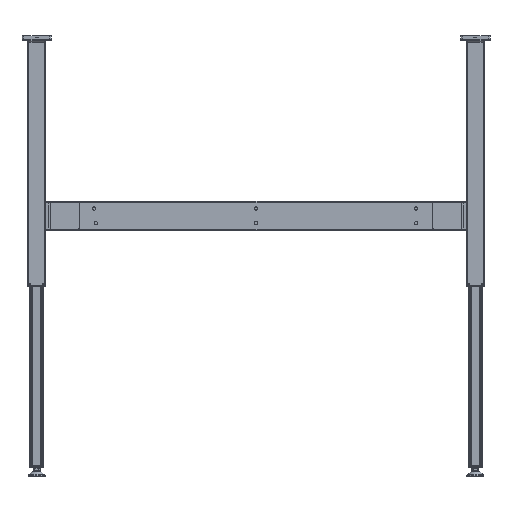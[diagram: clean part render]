
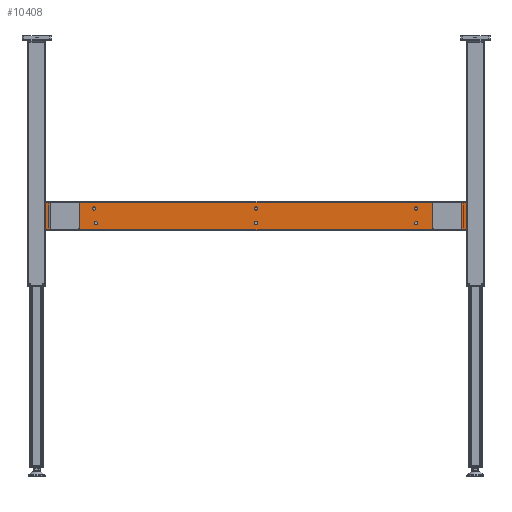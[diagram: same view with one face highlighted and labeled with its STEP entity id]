
A CAD part, left-side view. The second image highlights one B-rep face of the part: STEP entity #10408.
In plain terms, the highlighted planar face has unit normal (-1, 0, 0) as drawn and (0, 0, -1) by its records, which use the part's own axes.
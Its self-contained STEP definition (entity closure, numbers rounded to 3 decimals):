
#1041=CIRCLE('',#11484,4.5);
#1042=CIRCLE('',#11485,4.5);
#1043=CIRCLE('',#11486,4.5);
#1044=CIRCLE('',#11487,4.5);
#1045=CIRCLE('',#11488,4.5);
#1046=CIRCLE('',#11489,4.5);
#1047=CIRCLE('',#11490,5.);
#1048=CIRCLE('',#11491,5.);
#1049=CIRCLE('',#11492,5.);
#1050=CIRCLE('',#11493,5.);
#1051=CIRCLE('',#11494,5.);
#1052=CIRCLE('',#11495,5.);
#1053=CIRCLE('',#11496,5.);
#1054=CIRCLE('',#11497,5.);
#2982=ORIENTED_EDGE('',*,*,#4284,.F.);
#2983=ORIENTED_EDGE('',*,*,#4285,.F.);
#2984=ORIENTED_EDGE('',*,*,#4286,.F.);
#2985=ORIENTED_EDGE('',*,*,#4287,.F.);
#2986=ORIENTED_EDGE('',*,*,#4288,.F.);
#2987=ORIENTED_EDGE('',*,*,#4289,.F.);
#2988=ORIENTED_EDGE('',*,*,#4290,.F.);
#2989=ORIENTED_EDGE('',*,*,#4291,.F.);
#2990=ORIENTED_EDGE('',*,*,#4292,.T.);
#2991=ORIENTED_EDGE('',*,*,#4293,.T.);
#2992=ORIENTED_EDGE('',*,*,#4294,.T.);
#2993=ORIENTED_EDGE('',*,*,#4295,.T.);
#2994=ORIENTED_EDGE('',*,*,#4296,.T.);
#2995=ORIENTED_EDGE('',*,*,#4297,.T.);
#2996=ORIENTED_EDGE('',*,*,#4298,.T.);
#2997=ORIENTED_EDGE('',*,*,#4299,.T.);
#2998=ORIENTED_EDGE('',*,*,#4300,.T.);
#2999=ORIENTED_EDGE('',*,*,#4301,.T.);
#3000=ORIENTED_EDGE('',*,*,#4302,.F.);
#3001=ORIENTED_EDGE('',*,*,#4303,.F.);
#3002=ORIENTED_EDGE('',*,*,#4304,.F.);
#3003=ORIENTED_EDGE('',*,*,#4305,.F.);
#3004=ORIENTED_EDGE('',*,*,#4306,.F.);
#3005=ORIENTED_EDGE('',*,*,#4307,.F.);
#3006=ORIENTED_EDGE('',*,*,#4308,.F.);
#3007=ORIENTED_EDGE('',*,*,#4309,.F.);
#4284=EDGE_CURVE('',#5139,#5139,#1041,.T.);
#4285=EDGE_CURVE('',#5140,#5140,#1042,.T.);
#4286=EDGE_CURVE('',#5141,#5141,#1043,.T.);
#4287=EDGE_CURVE('',#5142,#5142,#1044,.T.);
#4288=EDGE_CURVE('',#5143,#5143,#1045,.T.);
#4289=EDGE_CURVE('',#5144,#5144,#1046,.T.);
#4290=EDGE_CURVE('',#5145,#5146,#5845,.T.);
#4291=EDGE_CURVE('',#5147,#5145,#5846,.T.);
#4292=EDGE_CURVE('',#5147,#5148,#5847,.T.);
#4293=EDGE_CURVE('',#5148,#5146,#5848,.T.);
#4294=EDGE_CURVE('',#5149,#5150,#1047,.F.);
#4295=EDGE_CURVE('',#5150,#5151,#5849,.T.);
#4296=EDGE_CURVE('',#5151,#5152,#1048,.F.);
#4297=EDGE_CURVE('',#5152,#5153,#5850,.T.);
#4298=EDGE_CURVE('',#5153,#5154,#1049,.F.);
#4299=EDGE_CURVE('',#5154,#5155,#5851,.T.);
#4300=EDGE_CURVE('',#5155,#5156,#1050,.F.);
#4301=EDGE_CURVE('',#5156,#5149,#5852,.T.);
#4302=EDGE_CURVE('',#5157,#5158,#5853,.T.);
#4303=EDGE_CURVE('',#5159,#5157,#1051,.T.);
#4304=EDGE_CURVE('',#5160,#5159,#5854,.T.);
#4305=EDGE_CURVE('',#5161,#5160,#1052,.T.);
#4306=EDGE_CURVE('',#5162,#5161,#5855,.T.);
#4307=EDGE_CURVE('',#5163,#5162,#1053,.T.);
#4308=EDGE_CURVE('',#5164,#5163,#5856,.T.);
#4309=EDGE_CURVE('',#5158,#5164,#1054,.T.);
#5139=VERTEX_POINT('',#16606);
#5140=VERTEX_POINT('',#16608);
#5141=VERTEX_POINT('',#16610);
#5142=VERTEX_POINT('',#16612);
#5143=VERTEX_POINT('',#16614);
#5144=VERTEX_POINT('',#16616);
#5145=VERTEX_POINT('',#16618);
#5146=VERTEX_POINT('',#16619);
#5147=VERTEX_POINT('',#16621);
#5148=VERTEX_POINT('',#16623);
#5149=VERTEX_POINT('',#16626);
#5150=VERTEX_POINT('',#16627);
#5151=VERTEX_POINT('',#16629);
#5152=VERTEX_POINT('',#16631);
#5153=VERTEX_POINT('',#16633);
#5154=VERTEX_POINT('',#16635);
#5155=VERTEX_POINT('',#16637);
#5156=VERTEX_POINT('',#16639);
#5157=VERTEX_POINT('',#16642);
#5158=VERTEX_POINT('',#16643);
#5159=VERTEX_POINT('',#16645);
#5160=VERTEX_POINT('',#16647);
#5161=VERTEX_POINT('',#16649);
#5162=VERTEX_POINT('',#16651);
#5163=VERTEX_POINT('',#16653);
#5164=VERTEX_POINT('',#16655);
#5845=LINE('',#16617,#6500);
#5846=LINE('',#16620,#6501);
#5847=LINE('',#16622,#6502);
#5848=LINE('',#16624,#6503);
#5849=LINE('',#16628,#6504);
#5850=LINE('',#16632,#6505);
#5851=LINE('',#16636,#6506);
#5852=LINE('',#16640,#6507);
#5853=LINE('',#16641,#6508);
#5854=LINE('',#16646,#6509);
#5855=LINE('',#16650,#6510);
#5856=LINE('',#16654,#6511);
#6500=VECTOR('',#13937,1000.);
#6501=VECTOR('',#13938,1000.);
#6502=VECTOR('',#13939,1000.);
#6503=VECTOR('',#13940,1000.);
#6504=VECTOR('',#13943,1000.);
#6505=VECTOR('',#13946,1000.);
#6506=VECTOR('',#13949,1000.);
#6507=VECTOR('',#13952,1000.);
#6508=VECTOR('',#13953,1000.);
#6509=VECTOR('',#13956,1000.);
#6510=VECTOR('',#13959,1000.);
#6511=VECTOR('',#13962,1000.);
#7216=EDGE_LOOP('',(#2982));
#7217=EDGE_LOOP('',(#2983));
#7218=EDGE_LOOP('',(#2984));
#7219=EDGE_LOOP('',(#2985));
#7220=EDGE_LOOP('',(#2986));
#7221=EDGE_LOOP('',(#2987));
#7222=EDGE_LOOP('',(#2988,#2989,#2990,#2991));
#7223=EDGE_LOOP('',(#2992,#2993,#2994,#2995,#2996,#2997,#2998,#2999));
#7224=EDGE_LOOP('',(#3000,#3001,#3002,#3003,#3004,#3005,#3006,#3007));
#8012=FACE_BOUND('',#7216,.T.);
#8013=FACE_BOUND('',#7217,.T.);
#8014=FACE_BOUND('',#7218,.T.);
#8015=FACE_BOUND('',#7219,.T.);
#8016=FACE_BOUND('',#7220,.T.);
#8017=FACE_BOUND('',#7221,.T.);
#8018=FACE_BOUND('',#7222,.T.);
#8019=FACE_BOUND('',#7223,.T.);
#8020=FACE_BOUND('',#7224,.T.);
#8398=PLANE('',#11483);
#10408=ADVANCED_FACE('',(#8012,#8013,#8014,#8015,#8016,#8017,#8018,#8019,
#8020),#8398,.T.);
#11483=AXIS2_PLACEMENT_3D('',#16604,#13923,#13924);
#11484=AXIS2_PLACEMENT_3D('',#16605,#13925,#13926);
#11485=AXIS2_PLACEMENT_3D('',#16607,#13927,#13928);
#11486=AXIS2_PLACEMENT_3D('',#16609,#13929,#13930);
#11487=AXIS2_PLACEMENT_3D('',#16611,#13931,#13932);
#11488=AXIS2_PLACEMENT_3D('',#16613,#13933,#13934);
#11489=AXIS2_PLACEMENT_3D('',#16615,#13935,#13936);
#11490=AXIS2_PLACEMENT_3D('',#16625,#13941,#13942);
#11491=AXIS2_PLACEMENT_3D('',#16630,#13944,#13945);
#11492=AXIS2_PLACEMENT_3D('',#16634,#13947,#13948);
#11493=AXIS2_PLACEMENT_3D('',#16638,#13950,#13951);
#11494=AXIS2_PLACEMENT_3D('',#16644,#13954,#13955);
#11495=AXIS2_PLACEMENT_3D('',#16648,#13957,#13958);
#11496=AXIS2_PLACEMENT_3D('',#16652,#13960,#13961);
#11497=AXIS2_PLACEMENT_3D('',#16656,#13963,#13964);
#13923=DIRECTION('',(0.,0.,-1.));
#13924=DIRECTION('',(-1.,0.,0.));
#13925=DIRECTION('',(0.,0.,-1.));
#13926=DIRECTION('',(0.,1.,0.));
#13927=DIRECTION('',(0.,0.,-1.));
#13928=DIRECTION('',(0.,1.,0.));
#13929=DIRECTION('',(0.,0.,-1.));
#13930=DIRECTION('',(0.,1.,0.));
#13931=DIRECTION('',(0.,0.,-1.));
#13932=DIRECTION('',(0.,1.,0.));
#13933=DIRECTION('',(0.,0.,-1.));
#13934=DIRECTION('',(0.,1.,0.));
#13935=DIRECTION('',(0.,0.,-1.));
#13936=DIRECTION('',(0.,1.,0.));
#13937=DIRECTION('',(1.,0.,0.));
#13938=DIRECTION('',(0.,-1.,0.));
#13939=DIRECTION('',(1.,0.,0.));
#13940=DIRECTION('',(0.,-1.,0.));
#13941=DIRECTION('',(0.,0.,-1.));
#13942=DIRECTION('',(-1.,0.,0.));
#13943=DIRECTION('',(1.,0.,0.));
#13944=DIRECTION('',(0.,0.,-1.));
#13945=DIRECTION('',(-1.,0.,0.));
#13946=DIRECTION('',(0.,1.,0.));
#13947=DIRECTION('',(0.,0.,-1.));
#13948=DIRECTION('',(-1.,0.,0.));
#13949=DIRECTION('',(-1.,0.,0.));
#13950=DIRECTION('',(0.,0.,-1.));
#13951=DIRECTION('',(-1.,0.,0.));
#13952=DIRECTION('',(0.,-1.,0.));
#13953=DIRECTION('',(1.,0.,0.));
#13954=DIRECTION('',(0.,0.,-1.));
#13955=DIRECTION('',(-1.,0.,0.));
#13956=DIRECTION('',(0.,1.,0.));
#13957=DIRECTION('',(0.,0.,-1.));
#13958=DIRECTION('',(-1.,0.,0.));
#13959=DIRECTION('',(-1.,0.,0.));
#13960=DIRECTION('',(0.,0.,-1.));
#13961=DIRECTION('',(-1.,0.,0.));
#13962=DIRECTION('',(0.,-1.,0.));
#13963=DIRECTION('',(0.,0.,-1.));
#13964=DIRECTION('',(-1.,0.,0.));
#16604=CARTESIAN_POINT('',(-38.,1150.,-25.));
#16605=CARTESIAN_POINT('',(-20.,1017.5,-25.));
#16606=CARTESIAN_POINT('',(-20.,1022.,-25.));
#16607=CARTESIAN_POINT('',(20.,1013.,-25.));
#16608=CARTESIAN_POINT('',(20.,1017.5,-25.));
#16609=CARTESIAN_POINT('',(-20.,575.,-25.));
#16610=CARTESIAN_POINT('',(-20.,579.5,-25.));
#16611=CARTESIAN_POINT('',(20.,575.,-25.));
#16612=CARTESIAN_POINT('',(20.,579.5,-25.));
#16613=CARTESIAN_POINT('',(-20.,137.,-25.));
#16614=CARTESIAN_POINT('',(-20.,141.5,-25.));
#16615=CARTESIAN_POINT('',(20.,137.,-25.));
#16616=CARTESIAN_POINT('',(20.,141.5,-25.));
#16617=CARTESIAN_POINT('',(-38.,0.,-25.));
#16618=CARTESIAN_POINT('',(-38.,0.,-25.));
#16619=CARTESIAN_POINT('',(38.,0.,-25.));
#16620=CARTESIAN_POINT('',(-38.,1150.,-25.));
#16621=CARTESIAN_POINT('',(-38.,1150.,-25.));
#16622=CARTESIAN_POINT('',(-38.,1150.,-25.));
#16623=CARTESIAN_POINT('',(38.,1150.,-25.));
#16624=CARTESIAN_POINT('',(38.,1150.,-25.));
#16625=CARTESIAN_POINT('',(-32.,1063.,-25.));
#16626=CARTESIAN_POINT('',(-37.,1063.,-25.));
#16627=CARTESIAN_POINT('',(-32.,1058.,-25.));
#16628=CARTESIAN_POINT('',(32.,1058.,-25.));
#16629=CARTESIAN_POINT('',(32.,1058.,-25.));
#16630=CARTESIAN_POINT('',(32.,1063.,-25.));
#16631=CARTESIAN_POINT('',(37.,1063.,-25.));
#16632=CARTESIAN_POINT('',(37.,1133.,-25.));
#16633=CARTESIAN_POINT('',(37.,1133.,-25.));
#16634=CARTESIAN_POINT('',(32.,1133.,-25.));
#16635=CARTESIAN_POINT('',(32.,1138.,-25.));
#16636=CARTESIAN_POINT('',(-32.,1138.,-25.));
#16637=CARTESIAN_POINT('',(-32.,1138.,-25.));
#16638=CARTESIAN_POINT('',(-32.,1133.,-25.));
#16639=CARTESIAN_POINT('',(-37.,1133.,-25.));
#16640=CARTESIAN_POINT('',(-37.,1063.,-25.));
#16641=CARTESIAN_POINT('',(32.,92.,-25.));
#16642=CARTESIAN_POINT('',(-32.,92.,-25.));
#16643=CARTESIAN_POINT('',(32.,92.,-25.));
#16644=CARTESIAN_POINT('',(-32.,87.,-25.));
#16645=CARTESIAN_POINT('',(-37.,87.,-25.));
#16646=CARTESIAN_POINT('',(-37.,87.,-25.));
#16647=CARTESIAN_POINT('',(-37.,17.,-25.));
#16648=CARTESIAN_POINT('',(-32.,17.,-25.));
#16649=CARTESIAN_POINT('',(-32.,12.,-25.));
#16650=CARTESIAN_POINT('',(-32.,12.,-25.));
#16651=CARTESIAN_POINT('',(32.,12.,-25.));
#16652=CARTESIAN_POINT('',(32.,17.,-25.));
#16653=CARTESIAN_POINT('',(37.,17.,-25.));
#16654=CARTESIAN_POINT('',(37.,17.,-25.));
#16655=CARTESIAN_POINT('',(37.,87.,-25.));
#16656=CARTESIAN_POINT('',(32.,87.,-25.));
